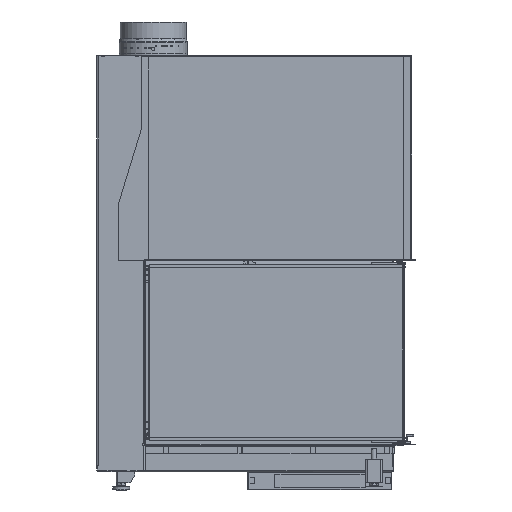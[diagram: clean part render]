
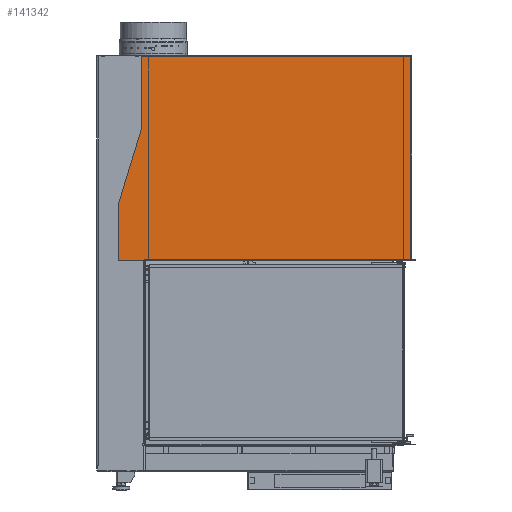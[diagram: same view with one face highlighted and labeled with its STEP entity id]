
A CAD part, left-side view. The second image highlights one B-rep face of the part: STEP entity #141342.
In plain terms, the highlighted planar face has unit normal (-1, 0, 0).
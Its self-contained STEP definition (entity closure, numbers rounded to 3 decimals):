
#2793=LINE('',#215724,#16935);
#2794=LINE('',#215728,#16936);
#2795=LINE('',#215732,#16937);
#2796=LINE('',#215734,#16938);
#2797=LINE('',#215736,#16939);
#2798=LINE('',#215740,#16940);
#2799=LINE('',#215746,#16941);
#2800=LINE('',#215748,#16942);
#2801=LINE('',#215750,#16943);
#2802=LINE('',#215754,#16944);
#2803=LINE('',#215757,#16945);
#16935=VECTOR('',#167761,10.);
#16936=VECTOR('',#167764,10.);
#16937=VECTOR('',#167767,10.);
#16938=VECTOR('',#167768,10.);
#16939=VECTOR('',#167769,10.);
#16940=VECTOR('',#167772,10.);
#16941=VECTOR('',#167777,10.);
#16942=VECTOR('',#167778,10.);
#16943=VECTOR('',#167779,10.);
#16944=VECTOR('',#167782,10.);
#16945=VECTOR('',#167785,10.);
#29678=PLANE('',#150097);
#37475=FACE_OUTER_BOUND('',#45247,.T.);
#45247=EDGE_LOOP('',(#100315,#100316,#100317,#100318,#100319,#100320,#100321,
#100322,#100323,#100324,#100325,#100326,#100327,#100328,#100329,#100330,
#100331,#100332,#100333));
#52962=CIRCLE('',#150098,3.);
#52963=CIRCLE('',#150099,1.);
#52964=CIRCLE('',#150100,0.1);
#52965=CIRCLE('',#150101,3.);
#52966=CIRCLE('',#150102,3.);
#52967=CIRCLE('',#150103,0.1);
#52968=CIRCLE('',#150104,3.);
#52969=CIRCLE('',#150105,3.);
#61490=VERTEX_POINT('',#215720);
#61491=VERTEX_POINT('',#215721);
#61492=VERTEX_POINT('',#215723);
#61493=VERTEX_POINT('',#215725);
#61494=VERTEX_POINT('',#215727);
#61495=VERTEX_POINT('',#215729);
#61496=VERTEX_POINT('',#215731);
#61497=VERTEX_POINT('',#215733);
#61498=VERTEX_POINT('',#215735);
#61499=VERTEX_POINT('',#215737);
#61500=VERTEX_POINT('',#215739);
#61501=VERTEX_POINT('',#215741);
#61502=VERTEX_POINT('',#215743);
#61503=VERTEX_POINT('',#215745);
#61504=VERTEX_POINT('',#215747);
#61505=VERTEX_POINT('',#215749);
#61506=VERTEX_POINT('',#215751);
#61507=VERTEX_POINT('',#215753);
#61508=VERTEX_POINT('',#215755);
#76032=EDGE_CURVE('',#61490,#61491,#52962,.T.);
#76033=EDGE_CURVE('',#61492,#61490,#2793,.T.);
#76034=EDGE_CURVE('',#61493,#61492,#52963,.T.);
#76035=EDGE_CURVE('',#61493,#61494,#2794,.T.);
#76036=EDGE_CURVE('',#61494,#61495,#52964,.T.);
#76037=EDGE_CURVE('',#61495,#61496,#2795,.T.);
#76038=EDGE_CURVE('',#61496,#61497,#2796,.T.);
#76039=EDGE_CURVE('',#61497,#61498,#2797,.T.);
#76040=EDGE_CURVE('',#61499,#61498,#52965,.T.);
#76041=EDGE_CURVE('',#61500,#61499,#2798,.T.);
#76042=EDGE_CURVE('',#61501,#61500,#52966,.T.);
#76043=EDGE_CURVE('',#61501,#61502,#52967,.T.);
#76044=EDGE_CURVE('',#61502,#61503,#2799,.T.);
#76045=EDGE_CURVE('',#61504,#61503,#2800,.T.);
#76046=EDGE_CURVE('',#61505,#61504,#2801,.T.);
#76047=EDGE_CURVE('',#61506,#61505,#52968,.T.);
#76048=EDGE_CURVE('',#61506,#61507,#2802,.T.);
#76049=EDGE_CURVE('',#61508,#61507,#52969,.T.);
#76050=EDGE_CURVE('',#61491,#61508,#2803,.T.);
#100315=ORIENTED_EDGE('',*,*,#76032,.F.);
#100316=ORIENTED_EDGE('',*,*,#76033,.F.);
#100317=ORIENTED_EDGE('',*,*,#76034,.F.);
#100318=ORIENTED_EDGE('',*,*,#76035,.T.);
#100319=ORIENTED_EDGE('',*,*,#76036,.T.);
#100320=ORIENTED_EDGE('',*,*,#76037,.T.);
#100321=ORIENTED_EDGE('',*,*,#76038,.T.);
#100322=ORIENTED_EDGE('',*,*,#76039,.T.);
#100323=ORIENTED_EDGE('',*,*,#76040,.F.);
#100324=ORIENTED_EDGE('',*,*,#76041,.F.);
#100325=ORIENTED_EDGE('',*,*,#76042,.F.);
#100326=ORIENTED_EDGE('',*,*,#76043,.T.);
#100327=ORIENTED_EDGE('',*,*,#76044,.T.);
#100328=ORIENTED_EDGE('',*,*,#76045,.F.);
#100329=ORIENTED_EDGE('',*,*,#76046,.F.);
#100330=ORIENTED_EDGE('',*,*,#76047,.F.);
#100331=ORIENTED_EDGE('',*,*,#76048,.T.);
#100332=ORIENTED_EDGE('',*,*,#76049,.F.);
#100333=ORIENTED_EDGE('',*,*,#76050,.F.);
#141342=ADVANCED_FACE('',(#37475),#29678,.T.);
#150097=AXIS2_PLACEMENT_3D('',#215719,#167757,#167758);
#150098=AXIS2_PLACEMENT_3D('',#215722,#167759,#167760);
#150099=AXIS2_PLACEMENT_3D('',#215726,#167762,#167763);
#150100=AXIS2_PLACEMENT_3D('',#215730,#167765,#167766);
#150101=AXIS2_PLACEMENT_3D('',#215738,#167770,#167771);
#150102=AXIS2_PLACEMENT_3D('',#215742,#167773,#167774);
#150103=AXIS2_PLACEMENT_3D('',#215744,#167775,#167776);
#150104=AXIS2_PLACEMENT_3D('',#215752,#167780,#167781);
#150105=AXIS2_PLACEMENT_3D('',#215756,#167783,#167784);
#167757=DIRECTION('center_axis',(-1.,0.,0.));
#167758=DIRECTION('ref_axis',(0.,-1.,0.));
#167759=DIRECTION('center_axis',(1.,0.,0.));
#167760=DIRECTION('ref_axis',(0.,0.707,-0.707));
#167761=DIRECTION('',(0.,1.,0.));
#167762=DIRECTION('center_axis',(1.,0.,0.));
#167763=DIRECTION('ref_axis',(0.,-0.707,-0.707));
#167764=DIRECTION('',(0.,0.,1.));
#167765=DIRECTION('center_axis',(1.,0.,0.));
#167766=DIRECTION('ref_axis',(0.,-1.,0.));
#167767=DIRECTION('',(0.,0.,-1.));
#167768=DIRECTION('',(0.,-1.,0.));
#167769=DIRECTION('',(0.,0.,1.));
#167770=DIRECTION('center_axis',(1.,0.,0.));
#167771=DIRECTION('ref_axis',(0.,-0.707,
0.707));
#167772=DIRECTION('',(0.,-1.,0.));
#167773=DIRECTION('center_axis',(1.,0.,0.));
#167774=DIRECTION('ref_axis',(0.,0.,
-1.));
#167775=DIRECTION('center_axis',(1.,0.,0.));
#167776=DIRECTION('ref_axis',(0.,1.,0.));
#167777=DIRECTION('',(0.,0.,1.));
#167778=DIRECTION('',(0.,-1.,0.));
#167779=DIRECTION('',(0.,0.,1.));
#167780=DIRECTION('center_axis',(-1.,0.,0.));
#167781=DIRECTION('ref_axis',(0.,-0.989,
-0.148));
#167782=DIRECTION('',(0.,0.292,-0.956));
#167783=DIRECTION('center_axis',(1.,0.,0.));
#167784=DIRECTION('ref_axis',(0.,0.989,0.148));
#167785=DIRECTION('',(0.,0.,1.));
#215719=CARTESIAN_POINT('Origin',(-270.,-93.496,989.941));
#215720=CARTESIAN_POINT('',(-270.,375.504,632.5));
#215721=CARTESIAN_POINT('',(-270.,378.504,635.5));
#215722=CARTESIAN_POINT('Origin',(-270.,375.504,635.5));
#215723=CARTESIAN_POINT('',(-270.,302.704,632.5));
#215724=CARTESIAN_POINT('',(-270.,-495.496,632.5));
#215725=CARTESIAN_POINT('',(-270.,301.704,633.5));
#215726=CARTESIAN_POINT('Origin',(-270.,302.704,633.5));
#215727=CARTESIAN_POINT('',(-270.,301.704,635.35));
#215728=CARTESIAN_POINT('',(-270.,301.704,812.646));
#215729=CARTESIAN_POINT('',(-270.,301.504,635.35));
#215730=CARTESIAN_POINT('Origin',(-270.,301.604,635.35));
#215731=CARTESIAN_POINT('',(-270.,301.504,635.25));
#215732=CARTESIAN_POINT('',(-270.,301.504,811.221));
#215733=CARTESIAN_POINT('',(-270.,-495.496,635.25));
#215734=CARTESIAN_POINT('',(-270.,-294.496,635.25));
#215735=CARTESIAN_POINT('',(-270.,-495.496,1239.25));
#215736=CARTESIAN_POINT('',(-270.,-495.496,632.5));
#215737=CARTESIAN_POINT('',(-270.,-492.496,1242.25));
#215738=CARTESIAN_POINT('Origin',(-270.,-492.496,1239.25));
#215739=CARTESIAN_POINT('',(-270.,-474.426,1242.25));
#215740=CARTESIAN_POINT('',(-270.,-93.496,1242.25));
#215741=CARTESIAN_POINT('',(-270.,-473.139,1241.96));
#215742=CARTESIAN_POINT('Origin',(-270.,-474.426,1239.25));
#215743=CARTESIAN_POINT('',(-270.,-472.996,1242.05));
#215744=CARTESIAN_POINT('Origin',(-270.,-473.096,1242.05));
#215745=CARTESIAN_POINT('',(-270.,-472.996,1242.25));
#215746=CARTESIAN_POINT('',(-270.,-472.996,1116.096));
#215747=CARTESIAN_POINT('',(-270.,308.504,1242.25));
#215748=CARTESIAN_POINT('',(-270.,-93.496,1242.25));
#215749=CARTESIAN_POINT('',(-270.,308.504,1029.948));
#215750=CARTESIAN_POINT('',(-270.,308.504,632.5));
#215751=CARTESIAN_POINT('',(-270.,308.635,1029.071));
#215752=CARTESIAN_POINT('Origin',(-270.,311.504,1029.948));
#215753=CARTESIAN_POINT('',(-270.,378.373,800.969));
#215754=CARTESIAN_POINT('',(-270.,296.853,1067.61));
#215755=CARTESIAN_POINT('',(-270.,378.504,800.092));
#215756=CARTESIAN_POINT('Origin',(-270.,375.504,800.092));
#215757=CARTESIAN_POINT('',(-270.,378.504,632.5));
